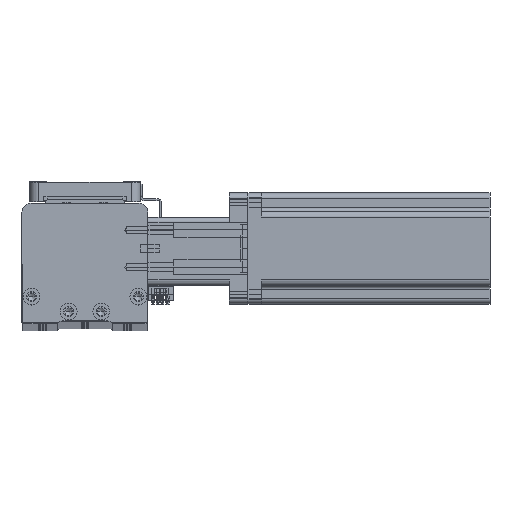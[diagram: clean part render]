
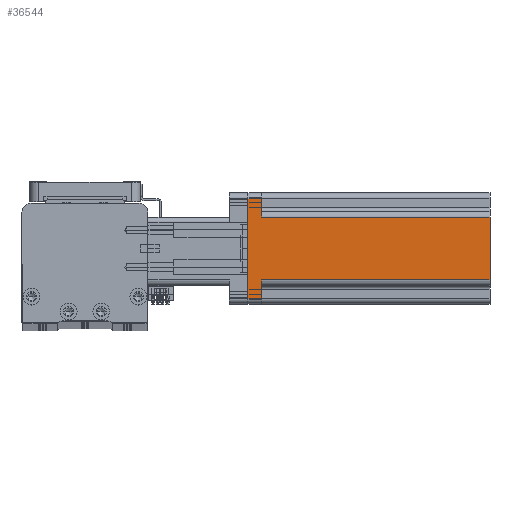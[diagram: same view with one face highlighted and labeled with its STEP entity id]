
A CAD part, top view. The second image highlights one B-rep face of the part: STEP entity #36544.
In plain terms, the highlighted planar face has unit normal (0, 0, 1) as drawn and (1, 0, 0) by its records, which use the part's own axes.
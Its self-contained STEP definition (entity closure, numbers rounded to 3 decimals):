
#721 = DIRECTION ( 'NONE',  ( 0., 1., 0. ) ) ;
#794 = VERTEX_POINT ( 'NONE', #24713 ) ;
#1067 = ORIENTED_EDGE ( 'NONE', *, *, #55584, .T. ) ;
#1179 = ORIENTED_EDGE ( 'NONE', *, *, #27302, .T. ) ;
#1625 = VECTOR ( 'NONE', #16385, 1000. ) ;
#5077 = VECTOR ( 'NONE', #19803, 1000. ) ;
#5627 = VECTOR ( 'NONE', #35274, 1000. ) ;
#7071 = CARTESIAN_POINT ( 'NONE',  ( 30., 27., 130.7 ) ) ;
#7343 = CARTESIAN_POINT ( 'NONE',  ( 30., 30., 7.5 ) ) ;
#7813 = CARTESIAN_POINT ( 'NONE',  ( 30., -30., 130.7 ) ) ;
#8737 = EDGE_LOOP ( 'NONE', ( #54398, #1067, #39153, #33758, #1179, #38550, #34499, #26409 ) ) ;
#9325 = CARTESIAN_POINT ( 'NONE',  ( 30., 17., 130.7 ) ) ;
#11529 = DIRECTION ( 'NONE',  ( 0., 0., 1. ) ) ;
#15358 = EDGE_CURVE ( 'NONE', #16531, #19844, #41068, .T. ) ;
#15837 = AXIS2_PLACEMENT_3D ( 'NONE', #46851, #20888, #51221 ) ;
#15846 = LINE ( 'NONE', #52706, #37536 ) ;
#16104 = DIRECTION ( 'NONE',  ( 0., 1., 0. ) ) ;
#16174 = VECTOR ( 'NONE', #11529, 1000. ) ;
#16385 = DIRECTION ( 'NONE',  ( 0., 1., 0. ) ) ;
#16531 = VERTEX_POINT ( 'NONE', #56262 ) ;
#19803 = DIRECTION ( 'NONE',  ( 0., 0., -1. ) ) ;
#19844 = VERTEX_POINT ( 'NONE', #22148 ) ;
#20291 = LINE ( 'NONE', #48741, #31809 ) ;
#20888 = DIRECTION ( 'NONE',  ( -1., 0., 0. ) ) ;
#21969 = EDGE_CURVE ( 'NONE', #25363, #54821, #50757, .T. ) ;
#22069 = CARTESIAN_POINT ( 'NONE',  ( 30., -17., 130.7 ) ) ;
#22148 = CARTESIAN_POINT ( 'NONE',  ( 30., -27., 0. ) ) ;
#23200 = CARTESIAN_POINT ( 'NONE',  ( 30., 27., 0. ) ) ;
#23588 = EDGE_CURVE ( 'NONE', #794, #54821, #34444, .T. ) ;
#24370 = FACE_OUTER_BOUND ( 'NONE', #8737, .T. ) ;
#24713 = CARTESIAN_POINT ( 'NONE',  ( 30., 17., 7.5 ) ) ;
#25363 = VERTEX_POINT ( 'NONE', #23200 ) ;
#26409 = ORIENTED_EDGE ( 'NONE', *, *, #27269, .T. ) ;
#26704 = VERTEX_POINT ( 'NONE', #22069 ) ;
#27269 = EDGE_CURVE ( 'NONE', #794, #48413, #50410, .T. ) ;
#27302 = EDGE_CURVE ( 'NONE', #19844, #25363, #15846, .T. ) ;
#30158 = VECTOR ( 'NONE', #37401, 1000. ) ;
#30397 = CARTESIAN_POINT ( 'NONE',  ( 30., -17., 7.5 ) ) ;
#31410 = VERTEX_POINT ( 'NONE', #30397 ) ;
#31809 = VECTOR ( 'NONE', #44404, 1000. ) ;
#32694 = CARTESIAN_POINT ( 'NONE',  ( 30., -27., 130.7 ) ) ;
#33758 = ORIENTED_EDGE ( 'NONE', *, *, #15358, .T. ) ;
#34444 = LINE ( 'NONE', #7343, #54796 ) ;
#34499 = ORIENTED_EDGE ( 'NONE', *, *, #23588, .F. ) ;
#35274 = DIRECTION ( 'NONE',  ( 0., 0., 1. ) ) ;
#36544 = ADVANCED_FACE ( 'NONE', ( #24370 ), #46683, .F. ) ;
#37401 = DIRECTION ( 'NONE',  ( 0., 0., -1. ) ) ;
#37536 = VECTOR ( 'NONE', #721, 1000. ) ;
#38550 = ORIENTED_EDGE ( 'NONE', *, *, #21969, .T. ) ;
#38893 = CARTESIAN_POINT ( 'NONE',  ( 30., 17., 130.7 ) ) ;
#38996 = LINE ( 'NONE', #7813, #1625 ) ;
#39153 = ORIENTED_EDGE ( 'NONE', *, *, #54253, .T. ) ;
#41068 = LINE ( 'NONE', #32694, #5077 ) ;
#41594 = CARTESIAN_POINT ( 'NONE',  ( 30., -17., 7.5 ) ) ;
#41737 = LINE ( 'NONE', #41594, #30158 ) ;
#44404 = DIRECTION ( 'NONE',  ( 0., -1., 0. ) ) ;
#46683 = PLANE ( 'NONE',  #15837 ) ;
#46851 = CARTESIAN_POINT ( 'NONE',  ( 30., -30., 130.7 ) ) ;
#48413 = VERTEX_POINT ( 'NONE', #38893 ) ;
#48741 = CARTESIAN_POINT ( 'NONE',  ( 30., -30., 7.5 ) ) ;
#50410 = LINE ( 'NONE', #9325, #5627 ) ;
#50757 = LINE ( 'NONE', #7071, #16174 ) ;
#51221 = DIRECTION ( 'NONE',  ( 0., 0., 1. ) ) ;
#52706 = CARTESIAN_POINT ( 'NONE',  ( 30., -30., 0. ) ) ;
#53615 = CARTESIAN_POINT ( 'NONE',  ( 30., 27., 7.5 ) ) ;
#54253 = EDGE_CURVE ( 'NONE', #31410, #16531, #20291, .T. ) ;
#54398 = ORIENTED_EDGE ( 'NONE', *, *, #55709, .F. ) ;
#54796 = VECTOR ( 'NONE', #16104, 1000. ) ;
#54821 = VERTEX_POINT ( 'NONE', #53615 ) ;
#55584 = EDGE_CURVE ( 'NONE', #26704, #31410, #41737, .T. ) ;
#55709 = EDGE_CURVE ( 'NONE', #26704, #48413, #38996, .T. ) ;
#56262 = CARTESIAN_POINT ( 'NONE',  ( 30., -27., 7.5 ) ) ;
